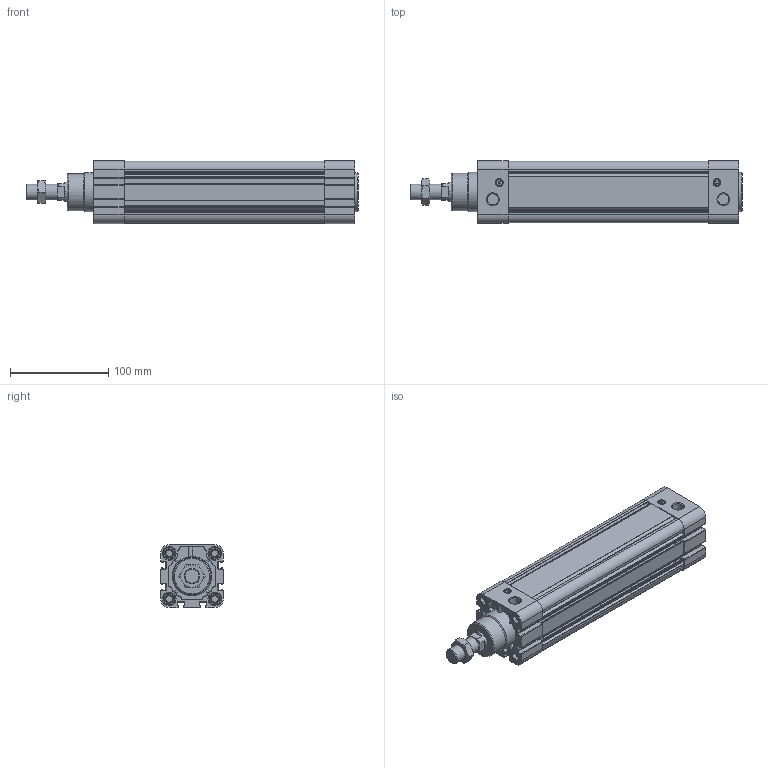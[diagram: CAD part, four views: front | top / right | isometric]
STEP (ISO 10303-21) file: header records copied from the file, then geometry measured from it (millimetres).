
FILE_DESCRIPTION( ( 'STEP AP214' ), '1' );
FILE_NAME( 'C:/Users/emc02044/Desktop/FVBC/FVBC50X160-S.stp', '2026-07-20T06:42:19', ( 'License CC BY-ND 4.0' ), ( 'CADENAS' ), ' ', 'PARTsolutions', ' ' );
FILE_SCHEMA( ( 'AUTOMOTIVE_DESIGN { 1 0 10303 214 1 1 1 1 }' ) );
Length unit declared in the file: millimetre
Products named in the file (3): FVBC50X160-0-S()(0); _FVB50x160()_fvbc_body ; _50X160-0_rod
Assembly tree (2 placements, depth 2):
  FVBC50X160-0-S()(0)
    _FVB50x160()_fvbc_body 
    _50X160-0_rod
Bounding box: 338.5 x 64 x 64.3 mm (x, y, z)
Volume: 730503.7 mm3; surface area: 188327.9 mm2
Topology: 2 solids, 4 shells, 706 faces, 1734 edges, 1103 vertices
Faces by surface type: plane 359, cylinder 264, cone 74, torus 9
Full cylindrical faces by diameter (mm): 1.9 x2, 2.5 x2, 4 x2, 5.4 x2, 6 x2, 6.647 x8, 6.7 x2, 6.9 x2, 7 x4, 8 x6, 11 x4, 11.445 x2, 12 x8, 13.5 x8, 16 x2, 20 x3, 26.667 x2, 38 x1, 40 x2, 50 x2
Entity records: 26458 total; most frequent: CARTESIAN_POINT 4197, DIRECTION 3576, ORIENTED_EDGE 3226, EDGE_CURVE 1613, AXIS2_PLACEMENT_3D 1330, VERTEX_POINT 1093, LINE 916, VECTOR 916
